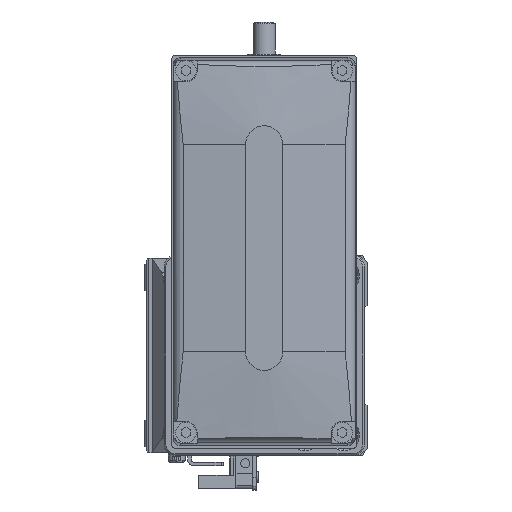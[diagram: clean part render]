
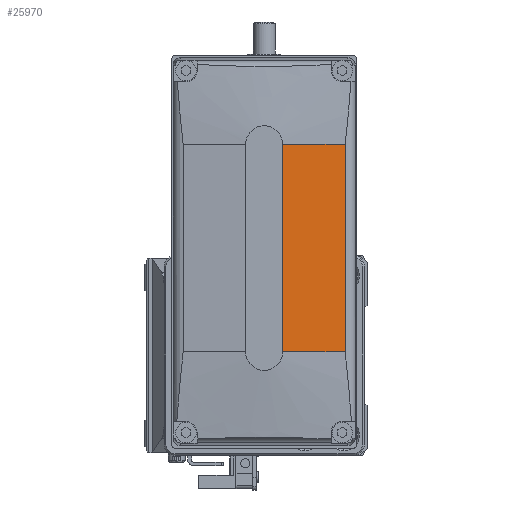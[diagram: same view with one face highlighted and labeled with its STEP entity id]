
A CAD part, left-side view. The second image highlights one B-rep face of the part: STEP entity #25970.
In plain terms, the highlighted planar face has unit normal (-0.996, -0.087, 0) as drawn and (-0.996, 0, -0.087) by its records, which use the part's own axes.
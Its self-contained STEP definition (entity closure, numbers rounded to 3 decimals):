
#251 = VERTEX_POINT ( 'NONE', #11688 ) ;
#1768 = DIRECTION ( 'NONE',  ( -0.996, 0., -0.087 ) ) ;
#4246 = DIRECTION ( 'NONE',  ( 0.087, 0., -0.996 ) ) ;
#4355 = CARTESIAN_POINT ( 'NONE',  ( -48.525, -28., -21.861 ) ) ;
#7377 = LINE ( 'NONE', #30729, #22319 ) ;
#9628 = FACE_OUTER_BOUND ( 'NONE', #35261, .T. ) ;
#9968 = ORIENTED_EDGE ( 'NONE', *, *, #16489, .T. ) ;
#10242 = DIRECTION ( 'NONE',  ( -0.087, 0., 0.996 ) ) ;
#10402 = EDGE_CURVE ( 'NONE', #30237, #251, #7377, .T. ) ;
#11403 = EDGE_CURVE ( 'NONE', #17948, #30237, #19035, .T. ) ;
#11506 = ORIENTED_EDGE ( 'NONE', *, *, #30251, .F. ) ;
#11688 = CARTESIAN_POINT ( 'NONE',  ( -50., 28., -5. ) ) ;
#13410 = VECTOR ( 'NONE', #4246, 1000. ) ;
#13456 = CARTESIAN_POINT ( 'NONE',  ( -50., 128., -5. ) ) ;
#14317 = LINE ( 'NONE', #24300, #13410 ) ;
#15583 = PLANE ( 'NONE',  #19872 ) ;
#16489 = EDGE_CURVE ( 'NONE', #29449, #251, #29930, .T. ) ;
#16928 = CARTESIAN_POINT ( 'NONE',  ( -48.525, 128., -21.861 ) ) ;
#17948 = VERTEX_POINT ( 'NONE', #4355 ) ;
#19035 = LINE ( 'NONE', #16928, #23581 ) ;
#19872 = AXIS2_PLACEMENT_3D ( 'NONE', #13456, #1768, #30936 ) ;
#22319 = VECTOR ( 'NONE', #10242, 1000. ) ;
#23143 = DIRECTION ( 'NONE',  ( 0., 1., 0. ) ) ;
#23581 = VECTOR ( 'NONE', #23777, 1000. ) ;
#23777 = DIRECTION ( 'NONE',  ( 0., 1., 0. ) ) ;
#24300 = CARTESIAN_POINT ( 'NONE',  ( 43606.406, -28., -499000. ) ) ;
#24561 = CARTESIAN_POINT ( 'NONE',  ( -48.525, 28., -21.861 ) ) ;
#25411 = VECTOR ( 'NONE', #23143, 1000. ) ;
#25970 = ADVANCED_FACE ( 'NONE', ( #9628 ), #15583, .T. ) ;
#26070 = CARTESIAN_POINT ( 'NONE',  ( -50., 128., -5. ) ) ;
#26296 = ORIENTED_EDGE ( 'NONE', *, *, #10402, .F. ) ;
#28649 = CARTESIAN_POINT ( 'NONE',  ( -50., -28., -5. ) ) ;
#29449 = VERTEX_POINT ( 'NONE', #28649 ) ;
#29930 = LINE ( 'NONE', #26070, #25411 ) ;
#30237 = VERTEX_POINT ( 'NONE', #24561 ) ;
#30251 = EDGE_CURVE ( 'NONE', #29449, #17948, #14317, .T. ) ;
#30729 = CARTESIAN_POINT ( 'NONE',  ( 43606.406, 28., -499000. ) ) ;
#30936 = DIRECTION ( 'NONE',  ( -0.087, 0., 0.996 ) ) ;
#31188 = ORIENTED_EDGE ( 'NONE', *, *, #11403, .F. ) ;
#35261 = EDGE_LOOP ( 'NONE', ( #26296, #31188, #11506, #9968 ) ) ;
